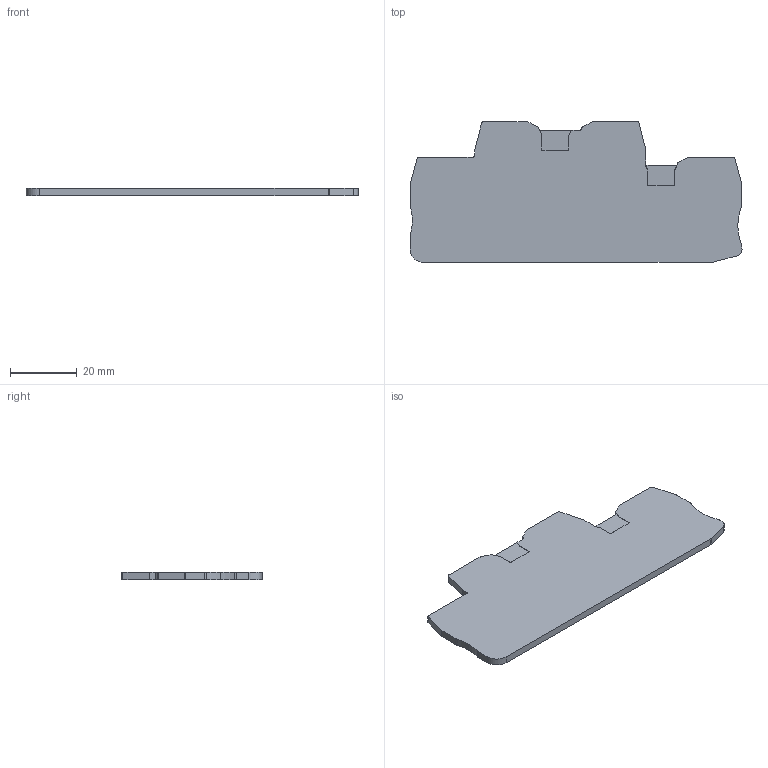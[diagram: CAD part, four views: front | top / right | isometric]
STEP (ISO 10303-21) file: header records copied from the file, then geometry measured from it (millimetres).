
FILE_DESCRIPTION(('SolidDesigner STEP Export'),'2;1');
FILE_NAME('3205187_d_qttcb1.5_select.stp','2004-02-10T 8:50:23',(''),(''),'OneSpaceDesigner STEP processor Version: 9.0 (March 2001)for AP203(Solid Model)','CoCreate OneSpaceDesigner: 11.50A 18-Jul-2002(C) CoCreate Software GmbH','');
FILE_SCHEMA(('CONFIG_CONTROL_DESIGN'));
Length unit declared in the file: millimetre
Products named in the file (2): 3205187_d_qttcb1.5_select
Assembly tree (1 placements, depth 2):
  3205187_d_qttcb1.5_select
    3205187_d_qttcb1.5_select
Bounding box: 99.55 x 42.15 x 2.2 mm (x, y, z)
Volume: 7792.4 mm3; surface area: 7727.7 mm2
Topology: 1 solids, 1 shells, 77 faces, 220 edges, 145 vertices
Faces by surface type: plane 50, cylinder 27
Entity records: 3283 total; most frequent: ORIENTED_EDGE 442, CARTESIAN_POINT 431, DIRECTION 406, EDGE_CURVE 220, VECTOR 166, LINE 166, VERTEX_POINT 145, AXIS2_PLACEMENT_3D 120
